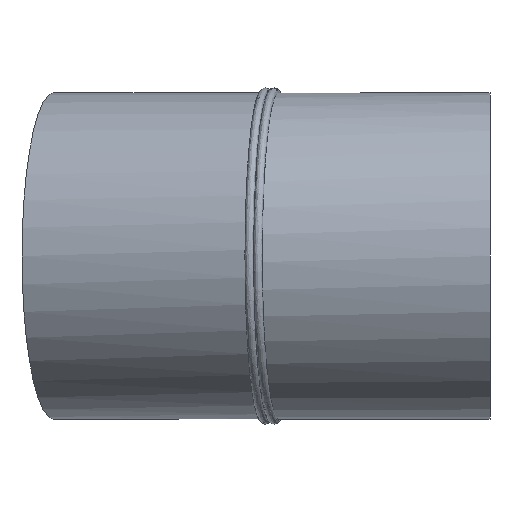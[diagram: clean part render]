
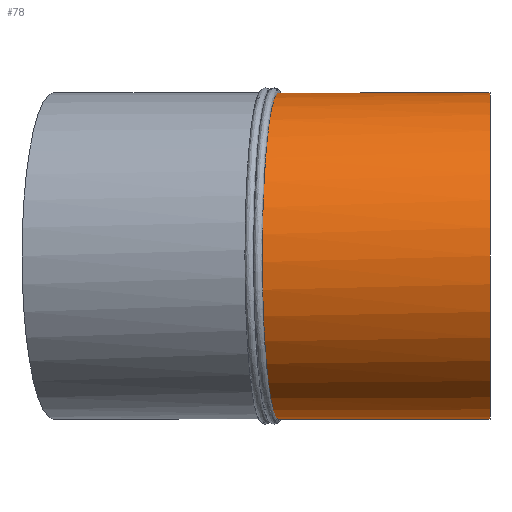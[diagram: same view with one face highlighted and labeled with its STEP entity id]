
A CAD part, left-side view. The second image highlights one B-rep face of the part: STEP entity #78.
In plain terms, the highlighted cylindrical face has radius 280 mm (diameter 560 mm), a full revolution.
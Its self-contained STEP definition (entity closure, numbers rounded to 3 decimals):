
#32=B_SPLINE_CURVE_WITH_KNOTS('',3,(#131,#132,#133,#134,#135,#136,#137,
#138,#139,#140,#141,#142,#143,#144,#145,#146,#147,#148,#149,#150,#151,#152,
#153,#154,#155,#156,#157,#158,#159,#160,#161,#162,#163,#164,#165,#166,#167,
#168,#169,#170,#171,#172,#173,#174,#175,#176,#177,#178,#179,#180,#181,#182,
#183,#184,#185,#186,#187,#188,#189,#190,#191,#192,#193,#194,#195,#196,#197,
#198,#199,#200,#201,#202,#203,#204,#205,#206,#207,#208,#209,#210,#211,#212,
#213,#214,#215,#216,#217,#218,#219,#220,#221,#222,#223,#224,#225,#226,#227),
 .UNSPECIFIED.,.T.,.F.,(1,1,1,1,1,1,1,1,1,1,1,1,1,1,1,1,1,1,1,1,1,1,1,1,
1,1,1,1,1,1,1,1,1,1,1,1,1,1,1,1,1,1,1,1,1,1,1,1,1,1,1,1,1,1,1,1,1,1,1,1,
1,1,1,1,1,1,1,1,1,1,1,1,1,1,1,1,1,1,1,1,1,1,1,1,1,1,1,1,1,1,1,1,1,1,1,1,
1,1,1,1,1),(-0.069,-0.055,-0.028,
0.,0.028,0.055,0.069,
0.083,0.111,0.138,0.166,
0.194,0.208,0.221,0.235,
0.249,0.277,0.304,0.318,
0.332,0.346,0.36,0.374,
0.387,0.401,0.415,0.443,
0.457,0.47,0.498,0.526,
0.54,0.553,0.581,0.609,
0.623,0.637,0.65,0.664,
0.678,0.692,0.72,0.747,
0.775,0.803,0.816,0.83,
0.844,0.858,0.886,0.913,
0.927,0.941,0.955,0.969,
0.982,0.996,1.01,1.024,1.052,
1.065,1.079,1.107,1.135,1.148,
1.162,1.19,1.218,1.245,1.259,
1.273,1.301,1.315,1.328,1.342,
1.356,1.384,1.398,1.411,1.439,
1.453,1.467,1.494,1.522,1.536,
1.55,1.564,1.577,1.605,1.633,
1.647,1.66,1.674,1.688,1.702,
1.716,1.743,1.771,1.799,1.827,
1.84),.UNSPECIFIED.);
#34=ORIENTED_EDGE('',*,*,#44,.T.);
#35=ORIENTED_EDGE('',*,*,#45,.F.);
#44=EDGE_CURVE('',#49,#49,#54,.T.);
#45=EDGE_CURVE('',#50,#50,#32,.T.);
#49=VERTEX_POINT('',#130);
#50=VERTEX_POINT('',#228);
#54=CIRCLE('',#99,280.);
#56=EDGE_LOOP('',(#34));
#57=EDGE_LOOP('',(#35));
#66=FACE_BOUND('',#56,.T.);
#67=FACE_BOUND('',#57,.T.);
#76=CYLINDRICAL_SURFACE('',#98,280.);
#78=ADVANCED_FACE('',(#66,#67),#76,.T.);
#98=AXIS2_PLACEMENT_3D('',#128,#109,#110);
#99=AXIS2_PLACEMENT_3D('',#129,#111,#112);
#109=DIRECTION('',(0.,-1.,0.));
#110=DIRECTION('',(0.,0.,-1.));
#111=DIRECTION('',(0.,1.,0.));
#112=DIRECTION('',(1.,0.,0.));
#128=CARTESIAN_POINT('',(0.,650.,0.));
#129=CARTESIAN_POINT('',(0.,0.,0.));
#130=CARTESIAN_POINT('',(280.,0.,0.));
#131=CARTESIAN_POINT('',(27.422,359.863,-279.098));
#132=CARTESIAN_POINT('',(0.035,362.573,-280.452));
#133=CARTESIAN_POINT('',(-27.562,365.307,-279.092));
#134=CARTESIAN_POINT('',(-50.129,367.545,-275.74));
#135=CARTESIAN_POINT('',(-67.984,369.316,-271.738));
#136=CARTESIAN_POINT('',(-85.702,371.076,-266.838));
#137=CARTESIAN_POINT('',(-107.246,373.216,-259.136));
#138=CARTESIAN_POINT('',(-132.209,375.699,-247.329));
#139=CARTESIAN_POINT('',(-155.565,378.023,-233.335));
#140=CARTESIAN_POINT('',(-173.813,379.841,-219.85));
#141=CARTESIAN_POINT('',(-187.647,381.22,-207.97));
#142=CARTESIAN_POINT('',(-197.661,382.219,-198.478));
#143=CARTESIAN_POINT('',(-207.187,383.169,-188.512));
#144=CARTESIAN_POINT('',(-219.197,384.367,-174.644));
#145=CARTESIAN_POINT('',(-232.966,385.742,-156.143));
#146=CARTESIAN_POINT('',(-244.793,386.924,-136.473));
#147=CARTESIAN_POINT('',(-253.106,387.754,-120.004));
#148=CARTESIAN_POINT('',(-258.706,388.314,-107.399));
#149=CARTESIAN_POINT('',(-263.676,388.811,-94.543));
#150=CARTESIAN_POINT('',(-268.022,389.245,-81.414));
#151=CARTESIAN_POINT('',(-271.71,389.614,-68.096));
#152=CARTESIAN_POINT('',(-274.732,389.916,-54.642));
#153=CARTESIAN_POINT('',(-277.092,390.152,-41.035));
#154=CARTESIAN_POINT('',(-279.343,390.378,-22.711));
#155=CARTESIAN_POINT('',(-280.232,390.467,-4.359));
#156=CARTESIAN_POINT('',(-279.758,390.419,14.11));
#157=CARTESIAN_POINT('',(-278.382,390.282,32.398));
#158=CARTESIAN_POINT('',(-275.012,389.944,54.918));
#159=CARTESIAN_POINT('',(-269.476,389.391,76.998));
#160=CARTESIAN_POINT('',(-263.732,388.816,94.389));
#161=CARTESIAN_POINT('',(-257.083,388.152,111.611));
#162=CARTESIAN_POINT('',(-247.254,387.169,132.36));
#163=CARTESIAN_POINT('',(-235.375,385.983,152.14));
#164=CARTESIAN_POINT('',(-224.787,384.926,167.134));
#165=CARTESIAN_POINT('',(-216.289,384.077,177.996));
#166=CARTESIAN_POINT('',(-207.251,383.175,188.442));
#167=CARTESIAN_POINT('',(-197.745,382.227,198.393));
#168=CARTESIAN_POINT('',(-187.762,381.232,207.868));
#169=CARTESIAN_POINT('',(-173.796,379.84,219.87));
#170=CARTESIAN_POINT('',(-155.368,378.004,233.483));
#171=CARTESIAN_POINT('',(-131.64,375.642,247.633));
#172=CARTESIAN_POINT('',(-107.,373.192,259.223));
#173=CARTESIAN_POINT('',(-85.65,371.07,266.849));
#174=CARTESIAN_POINT('',(-68.1,369.328,271.708));
#175=CARTESIAN_POINT('',(-54.663,367.995,274.728));
#176=CARTESIAN_POINT('',(-41.115,366.651,277.078));
#177=CARTESIAN_POINT('',(-22.956,364.851,279.321));
#178=CARTESIAN_POINT('',(0.006,362.576,280.45));
#179=CARTESIAN_POINT('',(22.847,360.316,279.33));
#180=CARTESIAN_POINT('',(41.086,358.512,277.083));
#181=CARTESIAN_POINT('',(54.623,357.175,274.735));
#182=CARTESIAN_POINT('',(68.018,355.851,271.729));
#183=CARTESIAN_POINT('',(81.291,354.541,268.058));
#184=CARTESIAN_POINT('',(94.362,353.251,263.74));
#185=CARTESIAN_POINT('',(107.176,351.987,258.797));
#186=CARTESIAN_POINT('',(119.748,350.748,253.227));
#187=CARTESIAN_POINT('',(136.178,349.129,244.955));
#188=CARTESIAN_POINT('',(151.88,347.583,235.543));
#189=CARTESIAN_POINT('',(166.93,346.101,224.939));
#190=CARTESIAN_POINT('',(181.356,344.682,213.672));
#191=CARTESIAN_POINT('',(198.187,343.028,198.416));
#192=CARTESIAN_POINT('',(213.461,341.527,181.603));
#193=CARTESIAN_POINT('',(224.723,340.421,167.221));
#194=CARTESIAN_POINT('',(235.36,339.377,152.164));
#195=CARTESIAN_POINT('',(247.188,338.217,132.486));
#196=CARTESIAN_POINT('',(259.049,337.053,107.461));
#197=CARTESIAN_POINT('',(266.798,336.294,85.834));
#198=CARTESIAN_POINT('',(271.724,335.811,68.041));
#199=CARTESIAN_POINT('',(275.738,335.418,50.15));
#200=CARTESIAN_POINT('',(278.421,335.155,32.061));
#201=CARTESIAN_POINT('',(279.773,335.022,13.796));
#202=CARTESIAN_POINT('',(280.114,334.989,-0.019));
#203=CARTESIAN_POINT('',(279.771,335.022,-13.851));
#204=CARTESIAN_POINT('',(278.408,335.156,-32.21));
#205=CARTESIAN_POINT('',(275.681,335.423,-50.484));
#206=CARTESIAN_POINT('',(271.625,335.821,-68.438));
#207=CARTESIAN_POINT('',(266.672,336.306,-86.224));
#208=CARTESIAN_POINT('',(260.452,336.916,-103.504));
#209=CARTESIAN_POINT('',(252.939,337.653,-120.357));
#210=CARTESIAN_POINT('',(244.645,338.466,-136.731));
#211=CARTESIAN_POINT('',(232.901,339.618,-156.219));
#212=CARTESIAN_POINT('',(219.341,340.95,-174.456));
#213=CARTESIAN_POINT('',(207.403,342.122,-188.274));
#214=CARTESIAN_POINT('',(197.871,343.059,-198.269));
#215=CARTESIAN_POINT('',(187.883,344.041,-207.757));
#216=CARTESIAN_POINT('',(173.985,345.407,-219.72));
#217=CARTESIAN_POINT('',(155.47,347.229,-233.414));
#218=CARTESIAN_POINT('',(135.809,349.165,-245.16));
#219=CARTESIAN_POINT('',(119.366,350.785,-253.407));
#220=CARTESIAN_POINT('',(106.792,352.025,-258.956));
#221=CARTESIAN_POINT('',(93.971,353.29,-263.88));
#222=CARTESIAN_POINT('',(80.871,354.582,-268.185));
#223=CARTESIAN_POINT('',(67.639,355.889,-271.822));
#224=CARTESIAN_POINT('',(49.871,357.644,-275.785));
#225=CARTESIAN_POINT('',(27.422,359.863,-279.098));
#226=CARTESIAN_POINT('',(0.035,362.573,-280.452));
#227=CARTESIAN_POINT('',(-27.562,365.307,-279.092));
#228=CARTESIAN_POINT('',(0.,362.577,-280.));
